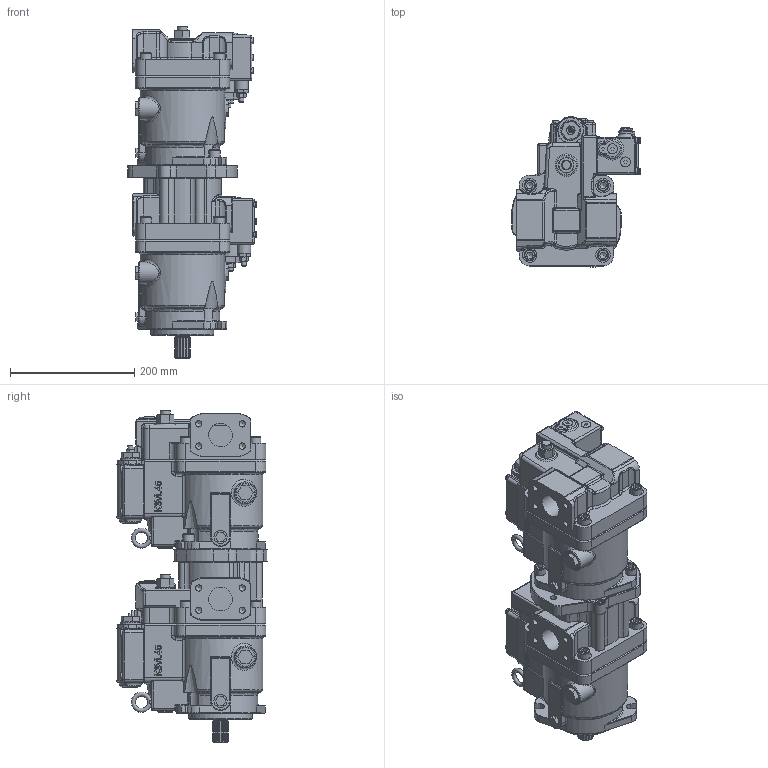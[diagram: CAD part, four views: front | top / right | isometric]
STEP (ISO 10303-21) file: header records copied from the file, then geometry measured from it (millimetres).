
FILE_DESCRIPTION((''),'2;1');
FILE_NAME('I:\3D Step files\Approved for WEB\K3V\K3VL45B 1BBRSM L1 1-M2 + K3VL45B 10RKM L1 1-M2.stp','2010-10-08T13:25:15',('MNorman'),(''),'Autodesk Inventor 2011','Autodesk Inventor 2011','');
FILE_SCHEMA(('AUTOMOTIVE_DESIGN { 1 0 10303 214 1 1 1 1 }'));
Length unit declared in the file: millimetre
Products named in the file (1): Part20
Bounding box: 207 x 242.18 x 534.2 mm (x, y, z)
Volume: 11310999 mm3; surface area: 706450.1 mm2
Topology: 59 solids, 60 shells, 2836 faces, 6769 edges, 4138 vertices
Faces by surface type: plane 1247, cylinder 726, cone 340, bspline 309, torus 167, sphere 47
Full cylindrical faces by diameter (mm): 4.917 x8, 6 x16, 6.5 x8, 6.6 x8, 6.647 x6, 8 x16, 8.376 x16, 9 x4, 10 x16, 10.106 x20, 11 x16, 12 x10, 13 x4, 13.835 x2, 14 x4, 15.5 x8, 16 x7, 18 x10, 21 x2, 21.3 x1, 22 x4, 22.177 x1, 23 x8, 24 x6, 25 x2, 25.4 x1, 26 x2, 30 x9, 32 x2, 33 x4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
Entity records: 91198 total; most frequent: CARTESIAN_POINT 27495, ORIENTED_EDGE 12332, DIRECTION 12209, EDGE_CURVE 6166, AXIS2_PLACEMENT_3D 4686, VERTEX_POINT 3979, EDGE_LOOP 3441, VECTOR 2837
